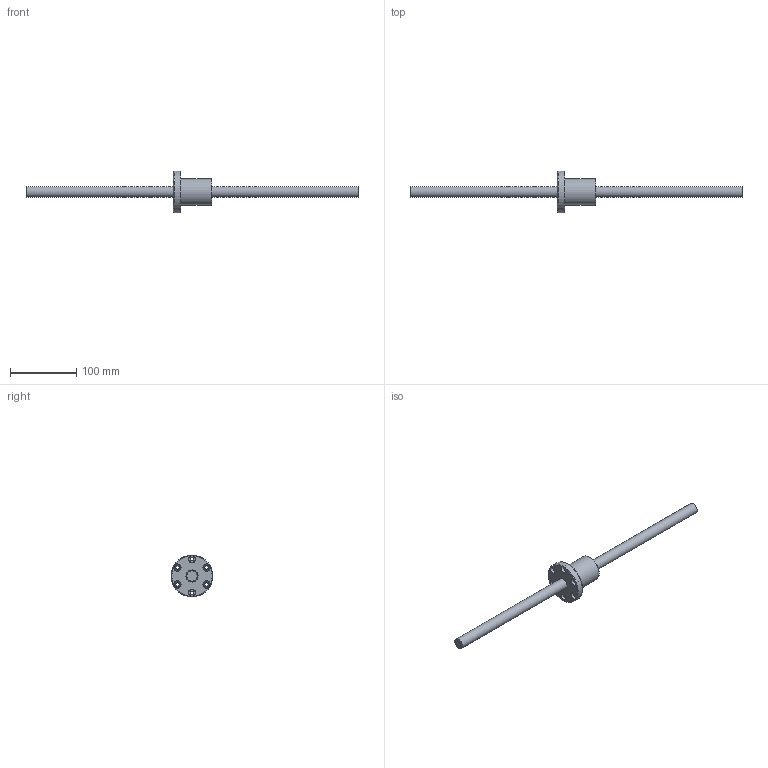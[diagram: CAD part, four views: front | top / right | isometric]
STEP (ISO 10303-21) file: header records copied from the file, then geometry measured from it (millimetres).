
FILE_DESCRIPTION (( 'STEP AP203' ), '1' );
FILE_NAME ('SFV01605N-4.8.step', '2024-05-20T03:37:22', ( '' ), ( '' ), 'SwSTEP 2.0', 'SolidWorks 2022', '' );
FILE_SCHEMA (( 'CONFIG_CONTROL_DESIGN' ));
Length unit declared in the file: millimetre
Products named in the file (1): SFV01605N-4.8
Bounding box: 500 x 63 x 63 mm (x, y, z)
Volume: 175161.2 mm3; surface area: 43893.7 mm2
Topology: 2 solids, 2 shells, 57 faces, 145 edges, 93 vertices
Faces by surface type: cylinder 24, cone 13, plane 12, bspline 5, torus 3
Full cylindrical faces by diameter (mm): 4 x1, 5 x6, 5.5 x6, 9.5 x6, 16 x1, 18.1 x1, 40 x1, 63 x1
Entity records: 3106 total; most frequent: CARTESIAN_POINT 2055, DIRECTION 206, ORIENTED_EDGE 148, EDGE_LOOP 102, AXIS2_PLACEMENT_3D 101, EDGE_CURVE 74, FACE_OUTER_BOUND 72, VERTEX_POINT 64
